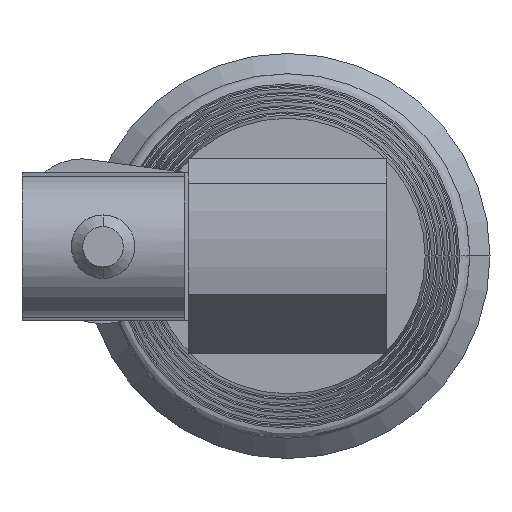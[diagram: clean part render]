
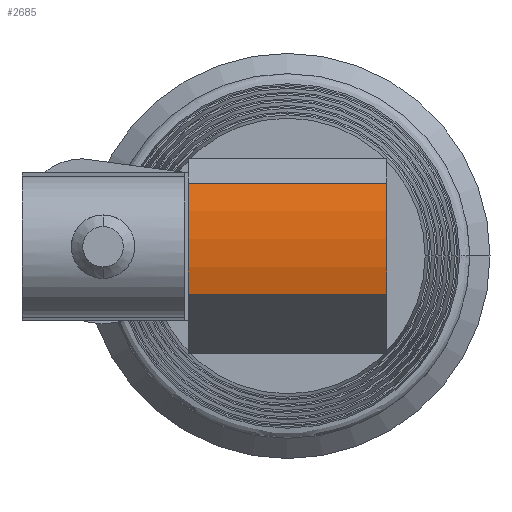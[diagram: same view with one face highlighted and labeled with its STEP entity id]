
A CAD part, left-side view. The second image highlights one B-rep face of the part: STEP entity #2685.
In plain terms, the highlighted cylindrical face has radius 5 mm (diameter 10 mm), a partial arc.
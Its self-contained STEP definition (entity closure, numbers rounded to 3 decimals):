
#53 = DIRECTION ( 'NONE',  ( 1., 0., 0. ) ) ;
#452 = AXIS2_PLACEMENT_3D ( 'NONE', #3012, #1346, #53 ) ;
#503 = DIRECTION ( 'NONE',  ( 0., 1., 0. ) ) ;
#694 = LINE ( 'NONE', #1646, #5119 ) ;
#718 = VERTEX_POINT ( 'NONE', #2276 ) ;
#869 = LINE ( 'NONE', #1566, #3127 ) ;
#957 = VERTEX_POINT ( 'NONE', #3716 ) ;
#1078 = CIRCLE ( 'NONE', #3999, 5. ) ;
#1280 = EDGE_CURVE ( 'NONE', #1321, #718, #2481, .T. ) ;
#1321 = VERTEX_POINT ( 'NONE', #2526 ) ;
#1346 = DIRECTION ( 'NONE',  ( 0., 1., 0. ) ) ;
#1442 = EDGE_CURVE ( 'NONE', #1321, #957, #694, .T. ) ;
#1516 = FACE_OUTER_BOUND ( 'NONE', #5020, .T. ) ;
#1529 = VERTEX_POINT ( 'NONE', #2943 ) ;
#1566 = CARTESIAN_POINT ( 'NONE',  ( 0.193, 2.45, 1.8 ) ) ;
#1587 = ORIENTED_EDGE ( 'NONE', *, *, #1280, .F. ) ;
#1646 = CARTESIAN_POINT ( 'NONE',  ( 0.193, 2.45, -0.95 ) ) ;
#2097 = CARTESIAN_POINT ( 'NONE',  ( 5., 2.45, 0.425 ) ) ;
#2276 = CARTESIAN_POINT ( 'NONE',  ( 0.193, 2.45, 1.8 ) ) ;
#2481 = CIRCLE ( 'NONE', #5143, 5. ) ;
#2526 = CARTESIAN_POINT ( 'NONE',  ( 0.193, 2.45, -0.95 ) ) ;
#2544 = DIRECTION ( 'NONE',  ( 1., 0., 0. ) ) ;
#2685 = ADVANCED_FACE ( 'NONE', ( #1516 ), #3657, .T. ) ;
#2943 = CARTESIAN_POINT ( 'NONE',  ( 0.193, -2.45, 1.8 ) ) ;
#3012 = CARTESIAN_POINT ( 'NONE',  ( 5., 2.45, 0.425 ) ) ;
#3055 = CARTESIAN_POINT ( 'NONE',  ( 5., -2.45, 0.425 ) ) ;
#3127 = VECTOR ( 'NONE', #4569, 1000. ) ;
#3477 = DIRECTION ( 'NONE',  ( 1., 0., 0. ) ) ;
#3657 = CYLINDRICAL_SURFACE ( 'NONE', #452, 5. ) ;
#3716 = CARTESIAN_POINT ( 'NONE',  ( 0.193, -2.45, -0.95 ) ) ;
#3729 = ORIENTED_EDGE ( 'NONE', *, *, #5531, .F. ) ;
#3999 = AXIS2_PLACEMENT_3D ( 'NONE', #3055, #503, #3477 ) ;
#4222 = DIRECTION ( 'NONE',  ( 0., -1., 0. ) ) ;
#4471 = ORIENTED_EDGE ( 'NONE', *, *, #4508, .T. ) ;
#4508 = EDGE_CURVE ( 'NONE', #957, #1529, #1078, .T. ) ;
#4569 = DIRECTION ( 'NONE',  ( 0., -1., 0. ) ) ;
#4903 = ORIENTED_EDGE ( 'NONE', *, *, #1442, .T. ) ;
#5020 = EDGE_LOOP ( 'NONE', ( #4471, #3729, #1587, #4903 ) ) ;
#5119 = VECTOR ( 'NONE', #4222, 1000. ) ;
#5132 = DIRECTION ( 'NONE',  ( 0., 1., 0. ) ) ;
#5143 = AXIS2_PLACEMENT_3D ( 'NONE', #2097, #5132, #2544 ) ;
#5531 = EDGE_CURVE ( 'NONE', #718, #1529, #869, .T. ) ;
